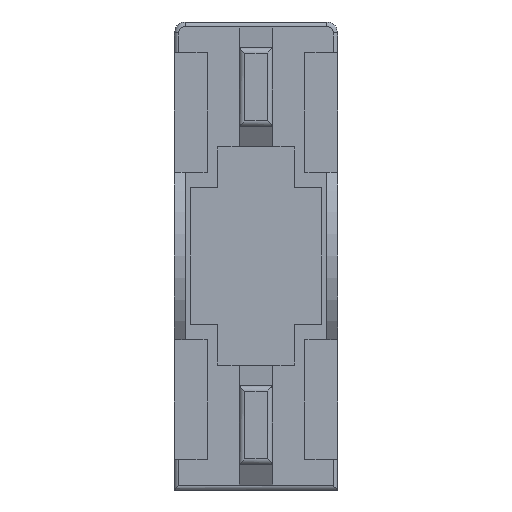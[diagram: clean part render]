
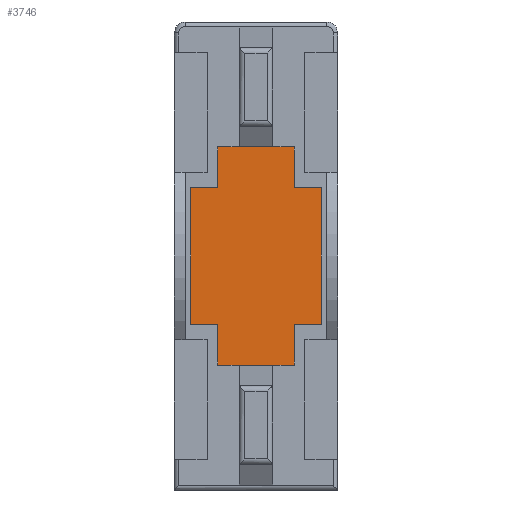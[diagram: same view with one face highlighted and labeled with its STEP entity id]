
A CAD part, front view. The second image highlights one B-rep face of the part: STEP entity #3746.
In plain terms, the highlighted planar face has unit normal (0, -1, 0).
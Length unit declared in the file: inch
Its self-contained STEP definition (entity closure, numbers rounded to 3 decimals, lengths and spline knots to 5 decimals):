
#275=PLANE('',#3981);
#395=FACE_OUTER_BOUND('',#606,.T.);
#606=EDGE_LOOP('',(#2643,#2644,#2645,#2646,#2647,#2648,#2649,#2650,#2651,
#2652,#2653,#2654));
#853=LINE('',#5006,#1247);
#859=LINE('',#5018,#1253);
#863=LINE('',#5027,#1257);
#865=LINE('',#5033,#1259);
#870=LINE('',#5042,#1264);
#871=LINE('',#5045,#1265);
#874=LINE('',#5051,#1268);
#875=LINE('',#5052,#1269);
#876=LINE('',#5053,#1270);
#877=LINE('',#5055,#1271);
#878=LINE('',#5056,#1272);
#879=LINE('',#5057,#1273);
#1247=VECTOR('',#4216,0.3937);
#1253=VECTOR('',#4224,0.3937);
#1257=VECTOR('',#4230,0.3937);
#1259=VECTOR('',#4234,0.3937);
#1264=VECTOR('',#4241,0.3937);
#1265=VECTOR('',#4244,0.3937);
#1268=VECTOR('',#4249,0.3937);
#1269=VECTOR('',#4250,0.3937);
#1270=VECTOR('',#4251,0.3937);
#1271=VECTOR('',#4252,0.3937);
#1272=VECTOR('',#4253,0.3937);
#1273=VECTOR('',#4254,0.3937);
#1659=VERTEX_POINT('',#5002);
#1661=VERTEX_POINT('',#5005);
#1664=VERTEX_POINT('',#5012);
#1666=VERTEX_POINT('',#5016);
#1668=VERTEX_POINT('',#5021);
#1670=VERTEX_POINT('',#5025);
#1671=VERTEX_POINT('',#5029);
#1673=VERTEX_POINT('',#5032);
#1676=VERTEX_POINT('',#5040);
#1677=VERTEX_POINT('',#5044);
#1679=VERTEX_POINT('',#5050);
#1680=VERTEX_POINT('',#5054);
#2041=EDGE_CURVE('',#1659,#1661,#853,.T.);
#2047=EDGE_CURVE('',#1666,#1664,#859,.T.);
#2051=EDGE_CURVE('',#1670,#1668,#863,.T.);
#2053=EDGE_CURVE('',#1671,#1673,#865,.T.);
#2058=EDGE_CURVE('',#1676,#1671,#870,.T.);
#2059=EDGE_CURVE('',#1664,#1677,#871,.T.);
#2062=EDGE_CURVE('',#1679,#1659,#874,.T.);
#2063=EDGE_CURVE('',#1677,#1679,#875,.T.);
#2064=EDGE_CURVE('',#1673,#1666,#876,.T.);
#2065=EDGE_CURVE('',#1680,#1676,#877,.T.);
#2066=EDGE_CURVE('',#1668,#1680,#878,.T.);
#2067=EDGE_CURVE('',#1661,#1670,#879,.T.);
#2643=ORIENTED_EDGE('',*,*,#2062,.F.);
#2644=ORIENTED_EDGE('',*,*,#2063,.F.);
#2645=ORIENTED_EDGE('',*,*,#2059,.F.);
#2646=ORIENTED_EDGE('',*,*,#2047,.F.);
#2647=ORIENTED_EDGE('',*,*,#2064,.F.);
#2648=ORIENTED_EDGE('',*,*,#2053,.F.);
#2649=ORIENTED_EDGE('',*,*,#2058,.F.);
#2650=ORIENTED_EDGE('',*,*,#2065,.F.);
#2651=ORIENTED_EDGE('',*,*,#2066,.F.);
#2652=ORIENTED_EDGE('',*,*,#2051,.F.);
#2653=ORIENTED_EDGE('',*,*,#2067,.F.);
#2654=ORIENTED_EDGE('',*,*,#2041,.F.);
#3746=ADVANCED_FACE('',(#395),#275,.F.);
#3981=AXIS2_PLACEMENT_3D('',#5049,#4247,#4248);
#4216=DIRECTION('',(0.,0.,1.));
#4224=DIRECTION('',(0.,0.,1.));
#4230=DIRECTION('',(0.,0.,-1.));
#4234=DIRECTION('',(0.,0.,-1.));
#4241=DIRECTION('',(-1.,0.,0.));
#4244=DIRECTION('',(-1.,0.,0.));
#4247=DIRECTION('center_axis',(0.,1.,0.));
#4248=DIRECTION('ref_axis',(0.,0.,1.));
#4249=DIRECTION('',(1.,0.,0.));
#4250=DIRECTION('',(0.,0.,1.));
#4251=DIRECTION('',(-1.,0.,0.));
#4252=DIRECTION('',(0.,0.,-1.));
#4253=DIRECTION('',(1.,0.,0.));
#4254=DIRECTION('',(1.,0.,0.));
#5002=CARTESIAN_POINT('',(-0.035,-0.079,0.0625));
#5005=CARTESIAN_POINT('',(-0.035,-0.079,0.1));
#5006=CARTESIAN_POINT('',(-0.035,-0.079,0.1));
#5012=CARTESIAN_POINT('',(-0.035,-0.079,-0.0625));
#5016=CARTESIAN_POINT('',(-0.035,-0.079,-0.1));
#5018=CARTESIAN_POINT('',(-0.035,-0.079,0.1));
#5021=CARTESIAN_POINT('',(0.035,-0.079,0.0625));
#5025=CARTESIAN_POINT('',(0.035,-0.079,0.1));
#5027=CARTESIAN_POINT('',(0.035,-0.079,-0.1));
#5029=CARTESIAN_POINT('',(0.035,-0.079,-0.0625));
#5032=CARTESIAN_POINT('',(0.035,-0.079,-0.1));
#5033=CARTESIAN_POINT('',(0.035,-0.079,-0.1));
#5040=CARTESIAN_POINT('',(0.06,-0.079,-0.0625));
#5042=CARTESIAN_POINT('',(-0.06,-0.079,-0.0625));
#5044=CARTESIAN_POINT('',(-0.06,-0.079,-0.0625));
#5045=CARTESIAN_POINT('',(-0.06,-0.079,-0.0625));
#5049=CARTESIAN_POINT('Origin',(0.,-0.079,
0.));
#5050=CARTESIAN_POINT('',(-0.06,-0.079,0.0625));
#5051=CARTESIAN_POINT('',(0.06,-0.079,0.0625));
#5052=CARTESIAN_POINT('',(-0.06,-0.079,0.0625));
#5053=CARTESIAN_POINT('',(-0.035,-0.079,-0.1));
#5054=CARTESIAN_POINT('',(0.06,-0.079,0.0625));
#5055=CARTESIAN_POINT('',(0.06,-0.079,-0.0625));
#5056=CARTESIAN_POINT('',(0.06,-0.079,0.0625));
#5057=CARTESIAN_POINT('',(0.035,-0.079,0.1));
